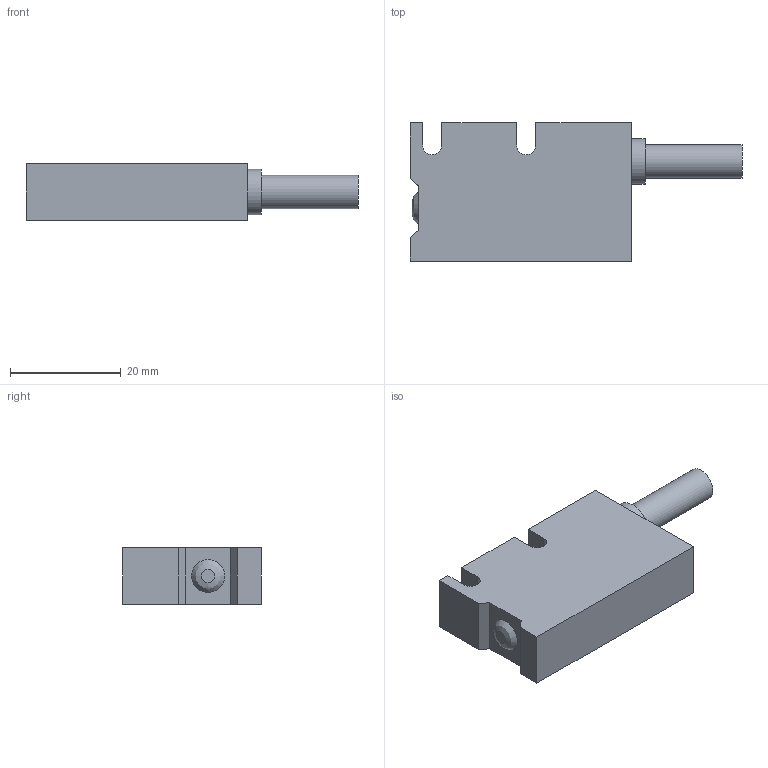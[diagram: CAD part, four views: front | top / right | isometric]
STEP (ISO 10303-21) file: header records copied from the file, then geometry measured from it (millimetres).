
FILE_DESCRIPTION((''),'2;1');
FILE_NAME('C:\TurckZip\T8-Li-Cable.stp','2009-04-17T09:41:14',('IKOROL'),(''),'Autodesk Inventor 2009','Autodesk Inventor 2009','');
FILE_SCHEMA(('CONFIG_CONTROL_DESIGN'));
Length unit declared in the file: millimetre
Products named in the file (1): Part10
Bounding box: 60 x 25 x 10.2 mm (x, y, z)
Volume: 10291.4 mm3; surface area: 3945.3 mm2
Topology: 1 solids, 1 shells, 26 faces, 61 edges, 41 vertices
Faces by surface type: plane 20, cylinder 5, bspline 1
Full cylindrical faces by diameter (mm): 6 x1, 7 x1, 8.25 x1
Entity records: 800 total; most frequent: CARTESIAN_POINT 149, DIRECTION 120, ORIENTED_EDGE 112, EDGE_CURVE 56, VECTOR 44, LINE 44, VERTEX_POINT 40, AXIS2_PLACEMENT_3D 38
